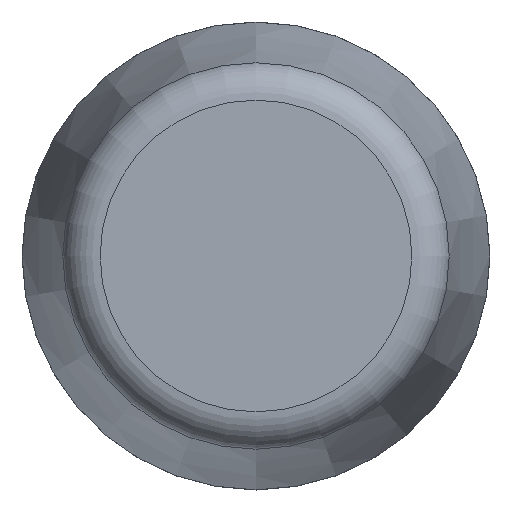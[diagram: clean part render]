
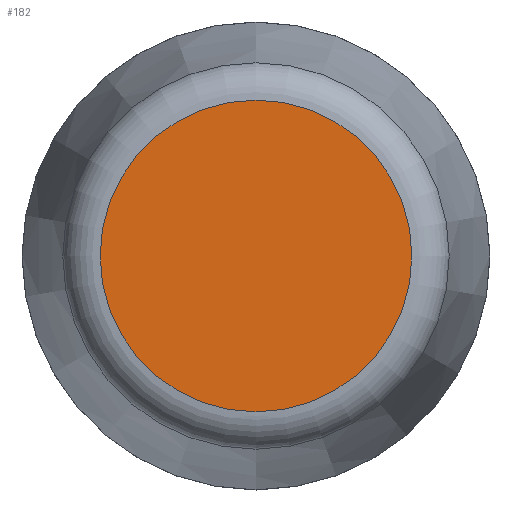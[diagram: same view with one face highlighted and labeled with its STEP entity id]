
A CAD part, front view. The second image highlights one B-rep face of the part: STEP entity #182.
In plain terms, the highlighted planar face has unit normal (0, -1, 0).
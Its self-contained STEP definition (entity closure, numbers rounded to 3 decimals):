
#182 = ADVANCED_FACE( '', ( #217 ), #218, .F. );
#217 = FACE_OUTER_BOUND( '', #292, .T. );
#218 = PLANE( '', #293 );
#292 = EDGE_LOOP( '', ( #368 ) );
#293 = AXIS2_PLACEMENT_3D( '', #369, #370, #371 );
#368 = ORIENTED_EDGE( '', *, *, #564, .T. );
#369 = CARTESIAN_POINT( '', ( 8.259, 0., 0. ) );
#370 = DIRECTION( '', ( 0., 1., 0. ) );
#371 = DIRECTION( '', ( 0., 0., 1. ) );
#564 = EDGE_CURVE( '', #619, #619, #620, .T. );
#619 = VERTEX_POINT( '', #707 );
#620 = CIRCLE( '', #708, 8.259 );
#707 = CARTESIAN_POINT( '', ( 0., 0., -8.259 ) );
#708 = AXIS2_PLACEMENT_3D( '', #938, #939, #940 );
#938 = CARTESIAN_POINT( '', ( 0., 0., 0. ) );
#939 = DIRECTION( '', ( 0., -1., 0. ) );
#940 = DIRECTION( '', ( 0., 0., -1. ) );
